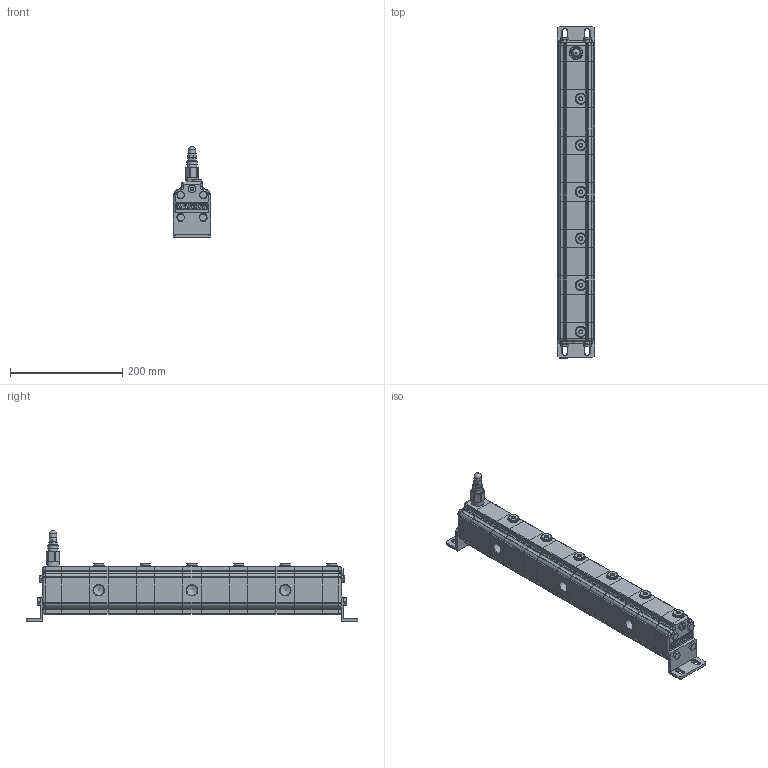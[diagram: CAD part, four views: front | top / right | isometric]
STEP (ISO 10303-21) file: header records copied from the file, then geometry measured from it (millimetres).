
FILE_DESCRIPTION(/* description */ ('Unknown'),/* implementation_level */ '2;1');
FILE_NAME(/* name */ '9RS06-23',/* time_stamp */ '2020-04-14T19:30:45+02:00',/* author */ ('Unknown'),/* organization */ ('Unknown'),/* preprocessor_version */ 'ST-DEVELOPER v16.7',/* originating_system */ 'DEX',/* authorisation */ $);
FILE_SCHEMA (('TECHNICAL_DATA_PACKAGING','AP242_MANAGED_MODEL_BASED_3D_ENGINEERING_MIM_LF { 1 0 10303 442 1 1 4 }','AUTOMOTIVE_DESIGN {1 0 10303 214 3 1 1}'));
Products named in the file (1): RV-1S
Bounding box: 66 x 591 x 161.5 mm (x, y, z)
Volume: 2609302 mm3; surface area: 190690.1 mm2
Topology: 2 solids, 2 shells, 1321 faces, 3573 edges, 2294 vertices
Faces by surface type: cylinder 596, plane 532, cone 90, bspline 64, torus 39
Full cylindrical faces by diameter (mm): 10 x1, 12 x8, 13 x1, 14 x1, 14.1 x1, 14.95 x12, 17 x1, 18 x7, 18.631 x7, 19 x6, 22 x1, 23 x1
Entity records: 55963 total; most frequent: CARTESIAN_POINT 13814, DIRECTION 7017, ORIENTED_EDGE 6792, EDGE_CURVE 3396, AXIS2_PLACEMENT_3D 2612, VERTEX_POINT 2250, LINE 1793, VECTOR 1793
